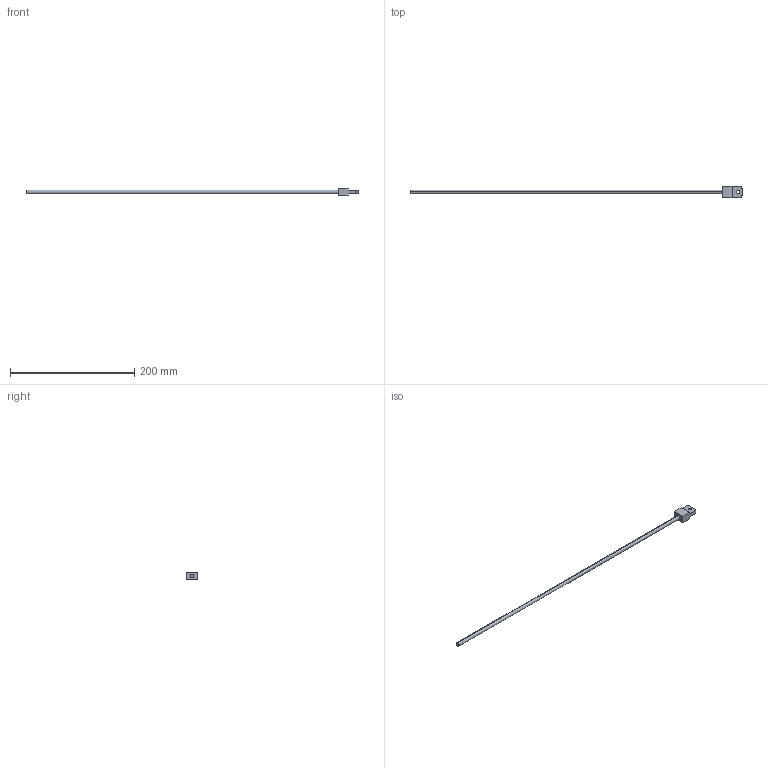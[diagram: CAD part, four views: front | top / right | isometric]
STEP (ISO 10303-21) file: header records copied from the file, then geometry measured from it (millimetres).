
FILE_DESCRIPTION (( 'STEP AP203' ), '1' );
FILE_NAME ('269-18-317.STEP', '2020-03-02T22:09:13', ( '' ), ( '' ), 'SwSTEP 2.0', 'SolidWorks 2017', '' );
FILE_SCHEMA (( 'CONFIG_CONTROL_DESIGN' ));
Length unit declared in the file: inch
Products named in the file (1): 269-18-317
Bounding box: 533.4 x 19.05 x 12.7 mm (x, y, z)
Volume: 21486.3 mm3; surface area: 12332.9 mm2
Topology: 1 solids, 1 shells, 17 faces, 42 edges, 28 vertices
Faces by surface type: plane 11, cylinder 6
Entity records: 591 total; most frequent: DIRECTION 90, CARTESIAN_POINT 88, ORIENTED_EDGE 84, EDGE_CURVE 42, LINE 30, VECTOR 30, AXIS2_PLACEMENT_3D 30, VERTEX_POINT 28
